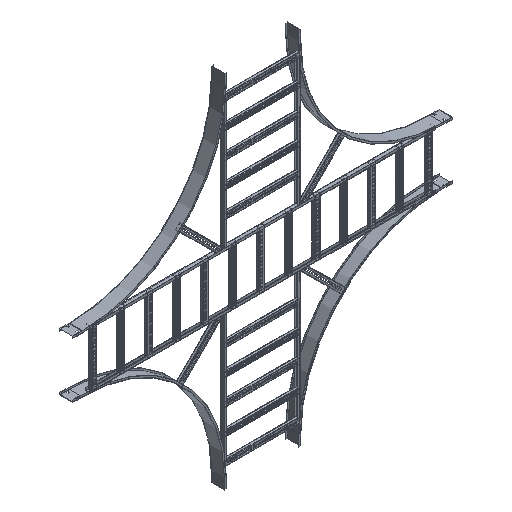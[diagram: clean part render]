
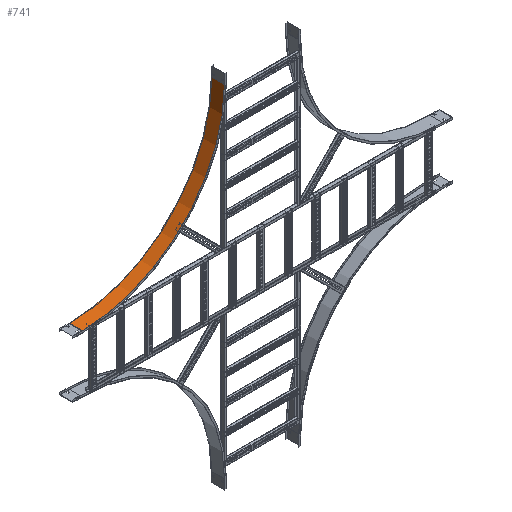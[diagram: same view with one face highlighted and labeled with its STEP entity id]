
A CAD part, isometric view. The second image highlights one B-rep face of the part: STEP entity #741.
In plain terms, the highlighted cylindrical face has radius 1143 mm (diameter 2286 mm), a partial arc.
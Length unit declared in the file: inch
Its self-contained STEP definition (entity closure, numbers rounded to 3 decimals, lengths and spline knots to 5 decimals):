
#156=CARTESIAN_POINT('',(0.,-45.,3.));
#157=DIRECTION('',(1.,0.,0.));
#158=DIRECTION('',(0.,1.,0.));
#159=AXIS2_PLACEMENT_3D('',#156,#157,#158);
#165=DIRECTION('',(1.,0.,0.));
#166=VECTOR('',#165,4.175);
#167=CARTESIAN_POINT('',(-4.175,0.,3.));
#168=LINE('',#167,#166);
#169=CARTESIAN_POINT('',(-4.175,-45.,3.));
#170=DIRECTION('',(1.,0.,0.));
#171=DIRECTION('',(0.,1.,0.));
#172=AXIS2_PLACEMENT_3D('',#169,#170,#171);
#174=DIRECTION('',(1.,0.,0.));
#175=VECTOR('',#174,4.175);
#176=CARTESIAN_POINT('',(-4.175,-45.,48.));
#177=LINE('',#176,#175);
#409=CARTESIAN_POINT('',(-4.175,0.,3.));
#410=CARTESIAN_POINT('',(0.,0.,3.));
#411=VERTEX_POINT('',#409);
#412=VERTEX_POINT('',#410);
#425=CARTESIAN_POINT('',(-4.175,-45.,48.));
#426=CARTESIAN_POINT('',(0.,-45.,48.));
#427=VERTEX_POINT('',#425);
#428=VERTEX_POINT('',#426);
#729=CARTESIAN_POINT('',(-1.,-45.,3.));
#730=DIRECTION('',(1.,0.,0.));
#731=DIRECTION('',(0.,-1.,0.));
#732=AXIS2_PLACEMENT_3D('',#729,#730,#731);
#733=CYLINDRICAL_SURFACE('',#732,45.);
#734=ORIENTED_EDGE('',*,*,#553,.F.);
#735=ORIENTED_EDGE('',*,*,#596,.T.);
#737=ORIENTED_EDGE('',*,*,#736,.T.);
#738=ORIENTED_EDGE('',*,*,#715,.F.);
#739=EDGE_LOOP('',(#734,#735,#737,#738));
#740=FACE_OUTER_BOUND('',#739,.F.);
#741=ADVANCED_FACE('',(#740),#733,.F.);
#160=CIRCLE('',#159,45.);
#173=CIRCLE('',#172,45.);
#553=EDGE_CURVE('',#411,#412,#168,.T.);
#596=EDGE_CURVE('',#411,#427,#173,.T.);
#715=EDGE_CURVE('',#412,#428,#160,.T.);
#736=EDGE_CURVE('',#427,#428,#177,.T.);
